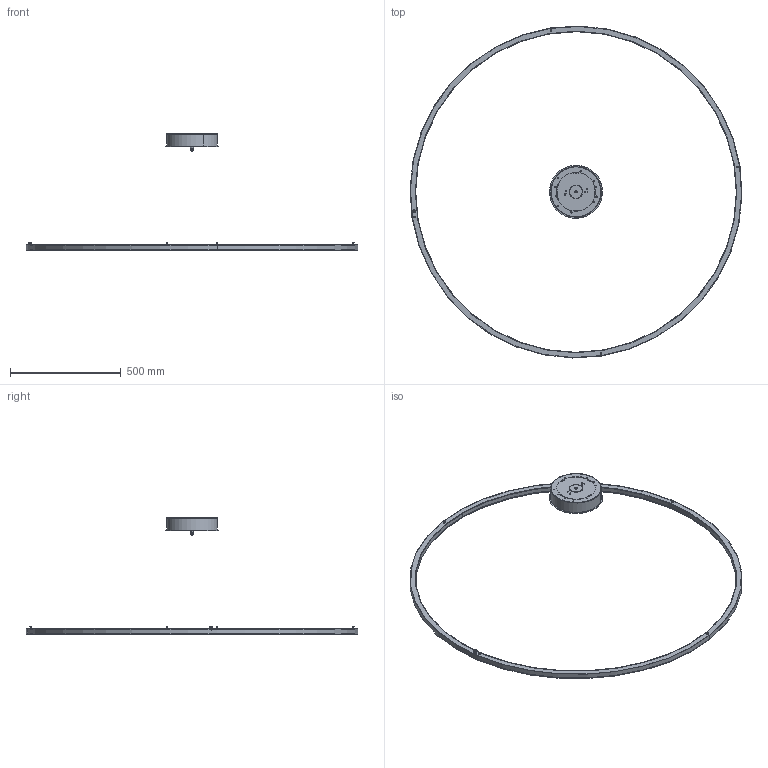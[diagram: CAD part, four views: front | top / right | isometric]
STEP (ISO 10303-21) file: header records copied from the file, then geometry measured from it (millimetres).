
FILE_DESCRIPTION (( 'STEP AP203' ), '1' );
FILE_NAME ('circus_1500.STEP', '2020-05-12T10:34:28', ( '' ), ( '' ), 'SwSTEP 2.0', 'SolidWorks 2019', '' );
FILE_SCHEMA (( 'CONFIG_CONTROL_DESIGN' ));
Length unit declared in the file: millimetre
Products named in the file (1): circus_1500
Bounding box: 1499.65 x 1499.65 x 525.1 mm (x, y, z)
Volume: 1010067.3 mm3; surface area: 1253204.4 mm2
Topology: 32 solids, 32 shells, 481 faces, 1099 edges, 708 vertices
Faces by surface type: cylinder 260, plane 159, cone 42, torus 20
Entity records: 13964 total; most frequent: DIRECTION 2667, CARTESIAN_POINT 2289, ORIENTED_EDGE 2198, EDGE_CURVE 1099, AXIS2_PLACEMENT_3D 1086, VERTEX_POINT 708, EDGE_LOOP 609, CIRCLE 604
